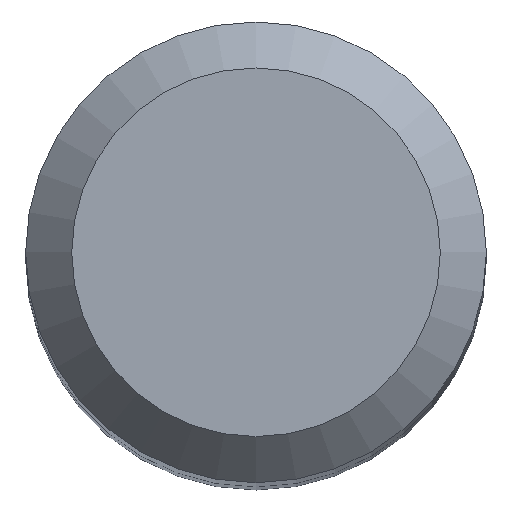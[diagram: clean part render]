
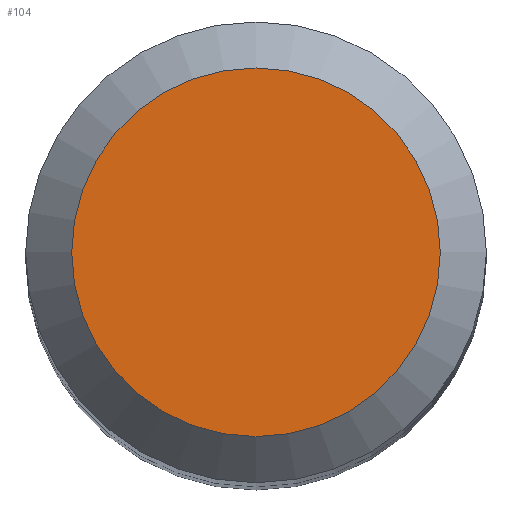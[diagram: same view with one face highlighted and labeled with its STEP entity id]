
A CAD part, top view. The second image highlights one B-rep face of the part: STEP entity #104.
In plain terms, the highlighted planar face has unit normal (0, 0, 1).
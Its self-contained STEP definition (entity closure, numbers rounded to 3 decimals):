
#88=CARTESIAN_POINT('',(4.8,0.0,110.0));
#89=DIRECTION('',(0.0,0.0,1.0));
#90=DIRECTION('',(1.0,0.0,0.0));
#91=AXIS2_PLACEMENT_3D('',#88,#89,#90);
#92=PLANE('',#91);
#93=CARTESIAN_POINT('',(-4.8,0.0,110.0));
#94=VERTEX_POINT('',#93);
#95=CARTESIAN_POINT('',(0.0,0.0,110.0));
#96=DIRECTION('',(0.0,0.0,-1.0));
#97=DIRECTION('',(-1.0,0.0,0.0));
#98=AXIS2_PLACEMENT_3D('',#95,#96,#97);
#99=CIRCLE('',#98,4.8);
#100=EDGE_CURVE('',#94,#94,#99,.T.);
#101=ORIENTED_EDGE('',*,*,#100,.F.);
#102=EDGE_LOOP('',(#101));
#103=FACE_OUTER_BOUND('',#102,.T.);
#104=ADVANCED_FACE('',(#103),#92,.T.);
